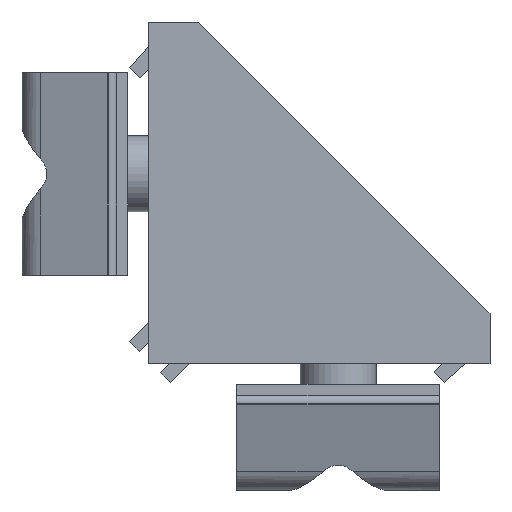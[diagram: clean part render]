
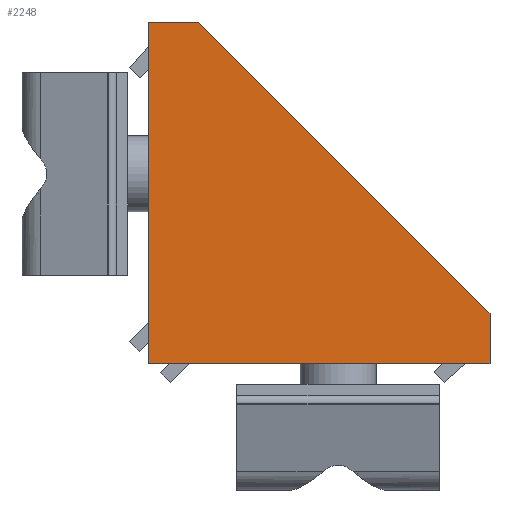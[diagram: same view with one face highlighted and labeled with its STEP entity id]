
A CAD part, left-side view. The second image highlights one B-rep face of the part: STEP entity #2248.
In plain terms, the highlighted planar face has unit normal (-1, 0, 0).
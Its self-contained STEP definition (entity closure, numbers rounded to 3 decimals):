
#1378=CARTESIAN_POINT('',(-8.,0.0,0.0));
#1379=VERTEX_POINT('',#1378);
#1386=CARTESIAN_POINT('',(-8.,0.0,27.0));
#1387=VERTEX_POINT('',#1386);
#1388=CARTESIAN_POINT('',(-8.,0.0,0.0));
#1389=DIRECTION('',(0.0,0.0,1.0));
#1390=VECTOR('',#1389,27.0);
#1391=LINE('',#1388,#1390);
#1392=EDGE_CURVE('',#1379,#1387,#1391,.T.);
#2116=CARTESIAN_POINT('',(-8.,-4.,27.0));
#2117=VERTEX_POINT('',#2116);
#2124=CARTESIAN_POINT('',(-8.,-27.0,4.));
#2125=VERTEX_POINT('',#2124);
#2126=CARTESIAN_POINT('',(-8.,-4.,27.0));
#2127=DIRECTION('',(0.0,-0.707,-0.707));
#2128=VECTOR('',#2127,32.527);
#2129=LINE('',#2126,#2128);
#2130=EDGE_CURVE('',#2117,#2125,#2129,.T.);
#2146=CARTESIAN_POINT('',(-8.,0.0,27.0));
#2147=DIRECTION('',(0.0,-1.0,0.0));
#2148=VECTOR('',#2147,4.);
#2149=LINE('',#2146,#2148);
#2150=EDGE_CURVE('',#1387,#2117,#2149,.T.);
#2170=CARTESIAN_POINT('',(-8.,-27.0,0.0));
#2171=VERTEX_POINT('',#2170);
#2172=CARTESIAN_POINT('',(-8.,-27.0,4.));
#2173=DIRECTION('',(0.0,0.0,-1.0));
#2174=VECTOR('',#2173,4.);
#2175=LINE('',#2172,#2174);
#2176=EDGE_CURVE('',#2125,#2171,#2175,.T.);
#2212=CARTESIAN_POINT('',(-8.,-27.0,0.0));
#2213=DIRECTION('',(0.0,1.0,0.0));
#2214=VECTOR('',#2213,27.0);
#2215=LINE('',#2212,#2214);
#2216=EDGE_CURVE('',#2171,#1379,#2215,.T.);
#2236=CARTESIAN_POINT('',(-8.,-10.417,10.417));
#2237=DIRECTION('',(-1.0,0.0,0.0));
#2238=DIRECTION('',(0.0,0.0,1.0));
#2239=AXIS2_PLACEMENT_3D('',#2236,#2237,#2238);
#2240=PLANE('',#2239);
#2241=ORIENTED_EDGE('',*,*,#2150,.F.);
#2242=ORIENTED_EDGE('',*,*,#1392,.F.);
#2243=ORIENTED_EDGE('',*,*,#2216,.F.);
#2244=ORIENTED_EDGE('',*,*,#2176,.F.);
#2245=ORIENTED_EDGE('',*,*,#2130,.F.);
#2246=EDGE_LOOP('',(#2241,#2242,#2243,#2244,#2245));
#2247=FACE_OUTER_BOUND('',#2246,.T.);
#2248=ADVANCED_FACE('',(#2247),#2240,.T.);
